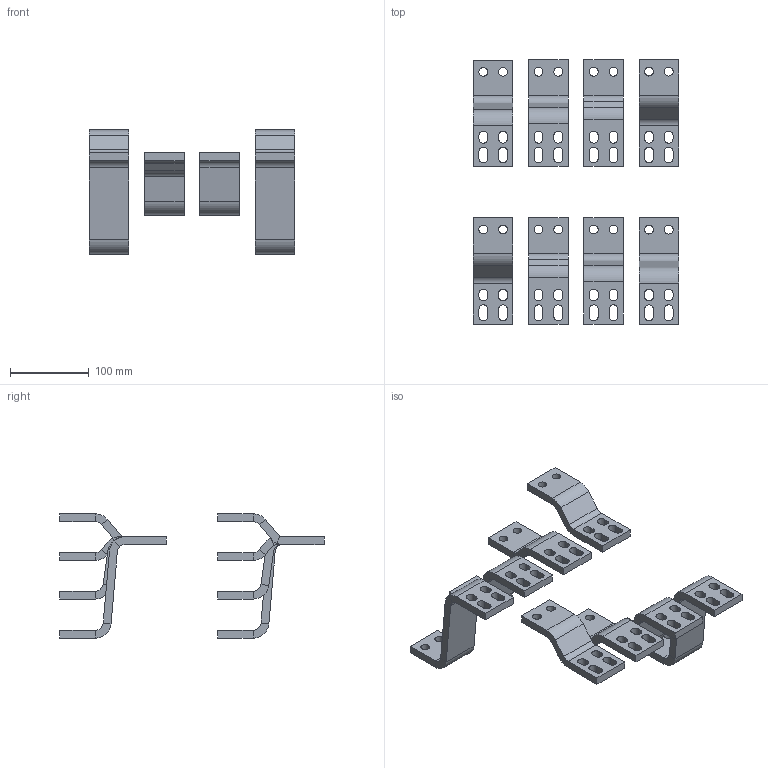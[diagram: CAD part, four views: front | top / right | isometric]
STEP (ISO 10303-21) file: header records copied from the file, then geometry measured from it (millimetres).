
FILE_DESCRIPTION((''),'2;1');
FILE_NAME('SB105837_3D_COLOUR','2013-08-06T',('SESA231906'),('Schneider-Electric'),'PRO/ENGINEER BY PARAMETRIC TECHNOLOGY CORPORATION, 2011410','PRO/ENGINEER BY PARAMETRIC TECHNOLOGY CORPORATION, 2011410','');
FILE_SCHEMA(('CONFIG_CONTROL_DESIGN'));
Length unit declared in the file: millimetre
Products named in the file (1): SB105837_3D_COLOUR
Bounding box: 260 x 335 x 157.5 mm (x, y, z)
Volume: 639348.3 mm3; surface area: 184992.4 mm2
Topology: 8 solids, 8 shells, 320 faces, 864 edges, 560 vertices
Faces by surface type: plane 192, cylinder 128
Entity records: 10268 total; most frequent: DIRECTION 1792, CARTESIAN_POINT 1744, ORIENTED_EDGE 1728, EDGE_CURVE 864, AXIS2_PLACEMENT_3D 608, VECTOR 576, LINE 576, VERTEX_POINT 560
